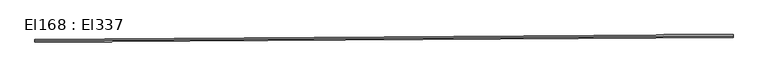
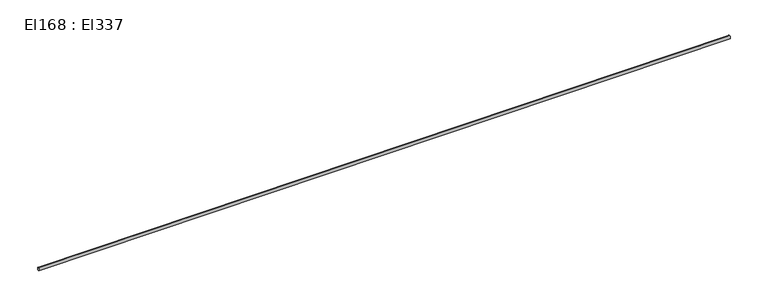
"""IFC4 building model written with IfcOpenShell, lengths in millimetres: cable carrier segment geometry, El168 : El337."""

from ifc_helpers import new_model, si_unit, point, frame, frame_2d, origin, place, context, project, spatial, circle_curve, trimmed, segment, composite_curve, outline, extrude, source, transform, mapped, element, save


def el168_el337_d79b4257(model_context):
    return source(origin(), model_context, "Body", "SweptSolid", [
        extrude(outline(composite_curve([segment(trimmed(circle_curve(frame_2d((0.0, -9.5)), 9.5), [point((0.0, -19.0))], [point((0.0, 0.0))], False, "CARTESIAN"), True, "CONTINUOUS"), segment(trimmed(circle_curve(frame_2d((0.0, -9.5)), 9.5), [point((0.0, 0.0))], [point((0.0, -19.0))], False, "CARTESIAN"), True, "CONTINUOUS")], self_intersect=False)), frame((27021.1384487, -860.6141379, 1509.5), z_axis=(0.9999763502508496, 0.0068774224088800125, 0.0), x_axis=(-0.0068774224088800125, 0.9999763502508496, 0.0)), (0.0, 0.0, 1.0), 4811.79),
    ])


if __name__ == "__main__":
    model = new_model("IFC4")
    model_context = context("Model", 3, world=origin())
    ifc_project = project(units=[si_unit("LENGTHUNIT", "METRE", prefix="MILLI")], contexts=[model_context])
    site = spatial("IfcSite", under=ifc_project)
    building = spatial("IfcBuilding", under=site)
    placement = place(None, origin())
    el168_el337_shape = el168_el337_d79b4257(model_context)
    element("IfcCableCarrierSegment", 1, ObjectType="El168 : El337", at=placement, inside=building, context=model_context, shape_type="MappedRepresentation", body=[
        mapped(el168_el337_shape, transform((0.0, 0.0, 0.0), x_axis=(1.0, 0.0, 0.0), y_axis=(0.0, 1.0, 0.0), z_axis=(0.0, 0.0, 1.0))),
    ])
    save(model, "model.ifc")
